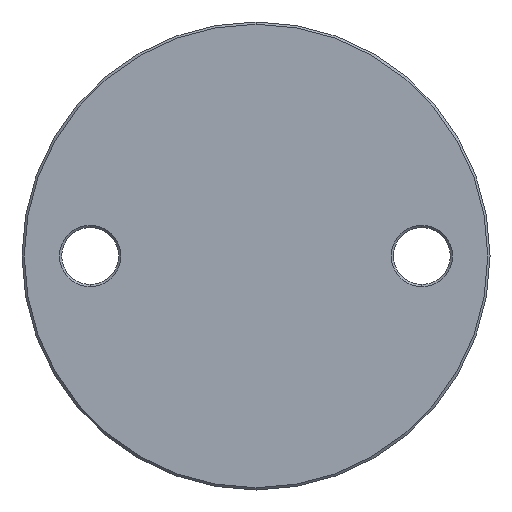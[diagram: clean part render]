
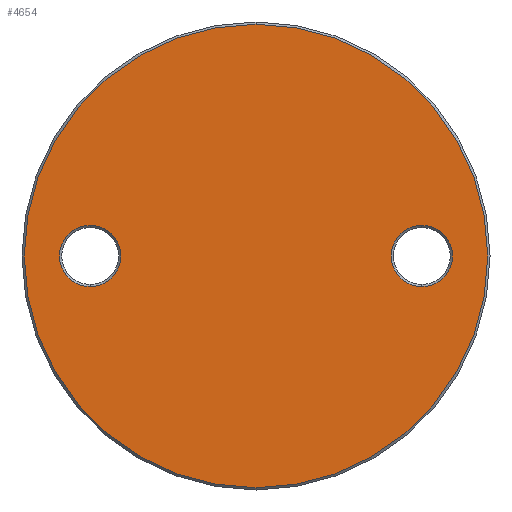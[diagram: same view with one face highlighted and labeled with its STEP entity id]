
A CAD part, front view. The second image highlights one B-rep face of the part: STEP entity #4654.
In plain terms, the highlighted planar face has unit normal (0, -1, 0).
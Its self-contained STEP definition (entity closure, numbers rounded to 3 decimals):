
#265 = EDGE_CURVE ( 'NONE', #3958, #5166, #3536, .T. ) ;
#416 = DIRECTION ( 'NONE',  ( 0., 1., 0. ) ) ;
#554 = AXIS2_PLACEMENT_3D ( 'NONE', #5794, #5074, #1423 ) ;
#582 = ORIENTED_EDGE ( 'NONE', *, *, #3180, .T. ) ;
#965 = CIRCLE ( 'NONE', #5420, 6.75 ) ;
#1037 = DIRECTION ( 'NONE',  ( 0., 0., -1. ) ) ;
#1342 = DIRECTION ( 'NONE',  ( 0., 0., -1. ) ) ;
#1423 = DIRECTION ( 'NONE',  ( 0., 0., -1. ) ) ;
#1639 = AXIS2_PLACEMENT_3D ( 'NONE', #6300, #4036, #5644 ) ;
#1649 = FACE_OUTER_BOUND ( 'NONE', #7223, .T. ) ;
#1671 = EDGE_CURVE ( 'NONE', #5508, #7324, #6926, .T. ) ;
#1691 = DIRECTION ( 'NONE',  ( 0., 1., 0. ) ) ;
#1723 = DIRECTION ( 'NONE',  ( 0., 0., -1. ) ) ;
#2073 = AXIS2_PLACEMENT_3D ( 'NONE', #3575, #3027, #1342 ) ;
#2245 = DIRECTION ( 'NONE',  ( 0., 0., -1. ) ) ;
#2395 = CIRCLE ( 'NONE', #6545, 6.75 ) ;
#3027 = DIRECTION ( 'NONE',  ( 0., -1., 0. ) ) ;
#3180 = EDGE_CURVE ( 'NONE', #5761, #8951, #965, .T. ) ;
#3182 = ORIENTED_EDGE ( 'NONE', *, *, #4972, .T. ) ;
#3238 = DIRECTION ( 'NONE',  ( 0., -1., 0. ) ) ;
#3263 = CARTESIAN_POINT ( 'NONE',  ( 0., -3., 0. ) ) ;
#3536 = CIRCLE ( 'NONE', #554, 6.75 ) ;
#3575 = CARTESIAN_POINT ( 'NONE',  ( 0., -3., 0. ) ) ;
#3957 = CARTESIAN_POINT ( 'NONE',  ( -36.5, -3., 0. ) ) ;
#3958 = VERTEX_POINT ( 'NONE', #7493 ) ;
#4036 = DIRECTION ( 'NONE',  ( 0., -1., 0. ) ) ;
#4164 = CIRCLE ( 'NONE', #9338, 6.75 ) ;
#4174 = CARTESIAN_POINT ( 'NONE',  ( -36.5, -3., -6.75 ) ) ;
#4654 = ADVANCED_FACE ( 'NONE', ( #9416, #8955, #1649 ), #7035, .T. ) ;
#4795 = EDGE_LOOP ( 'NONE', ( #3182, #9058 ) ) ;
#4972 = EDGE_CURVE ( 'NONE', #5166, #3958, #4164, .T. ) ;
#5074 = DIRECTION ( 'NONE',  ( 0., 1., 0. ) ) ;
#5093 = CARTESIAN_POINT ( 'NONE',  ( 36.5, -3., 0. ) ) ;
#5166 = VERTEX_POINT ( 'NONE', #5503 ) ;
#5420 = AXIS2_PLACEMENT_3D ( 'NONE', #7040, #416, #5552 ) ;
#5426 = EDGE_CURVE ( 'NONE', #7324, #5508, #8613, .T. ) ;
#5503 = CARTESIAN_POINT ( 'NONE',  ( 36.5, -3., -6.75 ) ) ;
#5508 = VERTEX_POINT ( 'NONE', #6003 ) ;
#5552 = DIRECTION ( 'NONE',  ( 0., 0., -1. ) ) ;
#5644 = DIRECTION ( 'NONE',  ( 0., 0., -1. ) ) ;
#5735 = ORIENTED_EDGE ( 'NONE', *, *, #5426, .T. ) ;
#5761 = VERTEX_POINT ( 'NONE', #4174 ) ;
#5794 = CARTESIAN_POINT ( 'NONE',  ( 36.5, -3., 0. ) ) ;
#5855 = CARTESIAN_POINT ( 'NONE',  ( 0., -3., -51. ) ) ;
#6003 = CARTESIAN_POINT ( 'NONE',  ( 0., -3., 51. ) ) ;
#6300 = CARTESIAN_POINT ( 'NONE',  ( 0., -3., 51.5 ) ) ;
#6342 = EDGE_LOOP ( 'NONE', ( #582, #8806 ) ) ;
#6545 = AXIS2_PLACEMENT_3D ( 'NONE', #3957, #1691, #1723 ) ;
#6610 = DIRECTION ( 'NONE',  ( 0., 1., 0. ) ) ;
#6639 = AXIS2_PLACEMENT_3D ( 'NONE', #3263, #3238, #1037 ) ;
#6674 = CARTESIAN_POINT ( 'NONE',  ( -36.5, -3., 6.75 ) ) ;
#6926 = CIRCLE ( 'NONE', #6639, 51. ) ;
#7035 = PLANE ( 'NONE',  #1639 ) ;
#7040 = CARTESIAN_POINT ( 'NONE',  ( -36.5, -3., 0. ) ) ;
#7223 = EDGE_LOOP ( 'NONE', ( #9360, #5735 ) ) ;
#7324 = VERTEX_POINT ( 'NONE', #5855 ) ;
#7493 = CARTESIAN_POINT ( 'NONE',  ( 36.5, -3., 6.75 ) ) ;
#7557 = EDGE_CURVE ( 'NONE', #8951, #5761, #2395, .T. ) ;
#8613 = CIRCLE ( 'NONE', #2073, 51. ) ;
#8806 = ORIENTED_EDGE ( 'NONE', *, *, #7557, .T. ) ;
#8951 = VERTEX_POINT ( 'NONE', #6674 ) ;
#8955 = FACE_BOUND ( 'NONE', #6342, .T. ) ;
#9058 = ORIENTED_EDGE ( 'NONE', *, *, #265, .T. ) ;
#9338 = AXIS2_PLACEMENT_3D ( 'NONE', #5093, #6610, #2245 ) ;
#9360 = ORIENTED_EDGE ( 'NONE', *, *, #1671, .T. ) ;
#9416 = FACE_BOUND ( 'NONE', #4795, .T. ) ;
